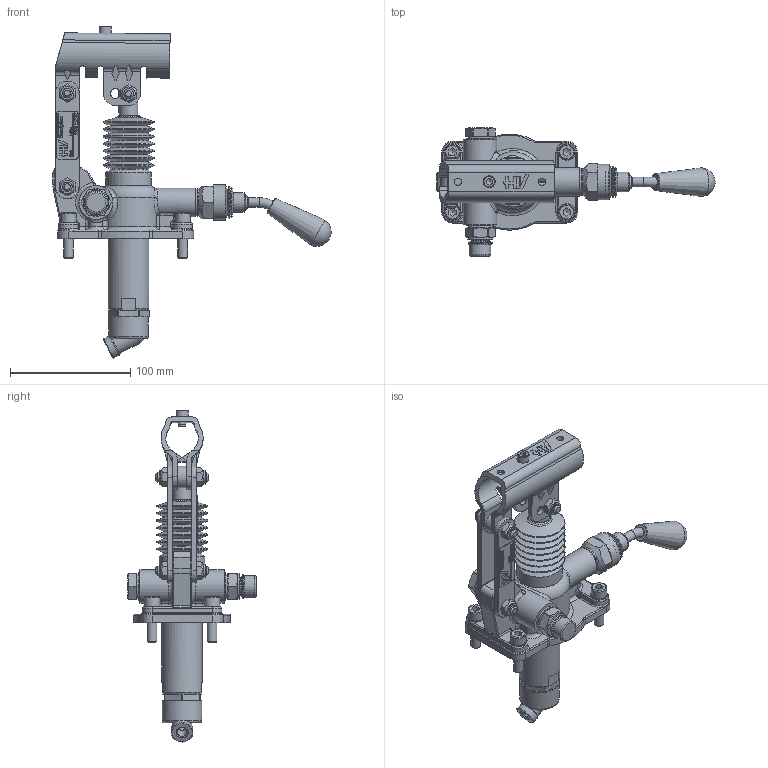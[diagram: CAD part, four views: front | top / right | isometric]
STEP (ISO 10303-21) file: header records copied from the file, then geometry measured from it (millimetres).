
FILE_DESCRIPTION((''),'2;1');
FILE_NAME('G:\HV_HYDRAULIC\AZIENDA_HV_HYDRAULIC\ARCHIVIO_DISEGNI\5_PRODOTTI_FINITI\1_POMPE_MANUALI\6051_PM_25\6051.0120_PM_25_m-s_(HV)\6051.0120.stp','2024-02-28T12:03:39',('christian.scardovi'),(''),'Autodesk Inventor 2013','Autodesk Inventor 2013','');
FILE_SCHEMA(('AUTOMOTIVE_DESIGN { 1 0 10303 214 1 1 1 1 }'));
Length unit declared in the file: millimetre
Products named in the file (1): 6051.0120
Bounding box: 231.43 x 106.5 x 276.08 mm (x, y, z)
Volume: 424900.3 mm3; surface area: 129829.9 mm2
Topology: 3 solids, 3 shells, 1481 faces, 3697 edges, 2326 vertices
Faces by surface type: plane 717, cylinder 304, bspline 191, cone 146, torus 107, sphere 16
Full cylindrical faces by diameter (mm): 3 x2, 5 x5, 5.5 x1, 6 x4, 6.5 x2, 8 x16, 9 x3, 9.2 x1, 10 x6, 10.376 x1, 11.05 x6, 12 x5, 13 x4, 13.2 x1, 13.468 x1, 14 x4, 14.95 x2, 15 x3, 15.5 x1, 16 x4, 16.468 x1, 16.6 x1, 17.6 x1, 18 x5, 19.7 x1, 20 x2, 21 x3, 22 x2, 23 x4, 24 x2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
Entity records: 46152 total; most frequent: CARTESIAN_POINT 12012, ORIENTED_EDGE 6704, DIRECTION 6255, EDGE_CURVE 3352, VERTEX_POINT 2252, AXIS2_PLACEMENT_3D 2219, EDGE_LOOP 1885, VECTOR 1817
